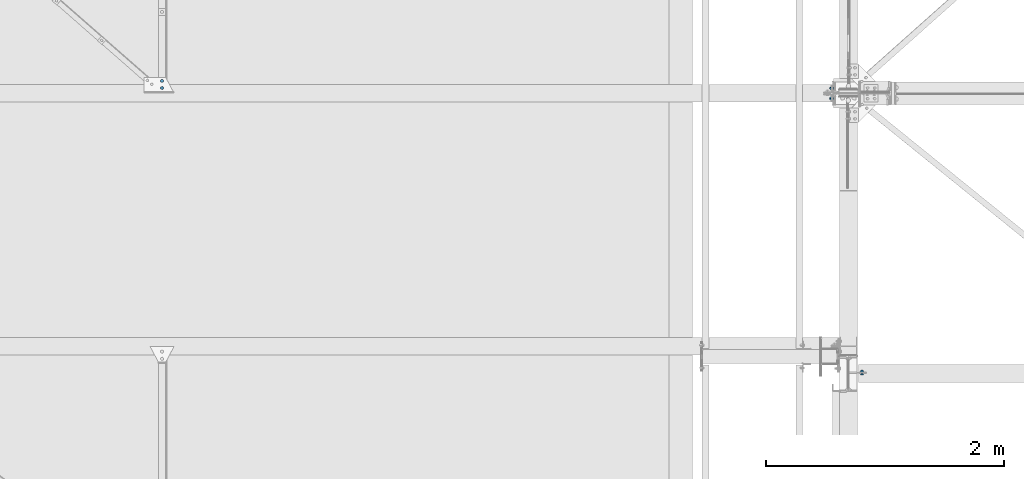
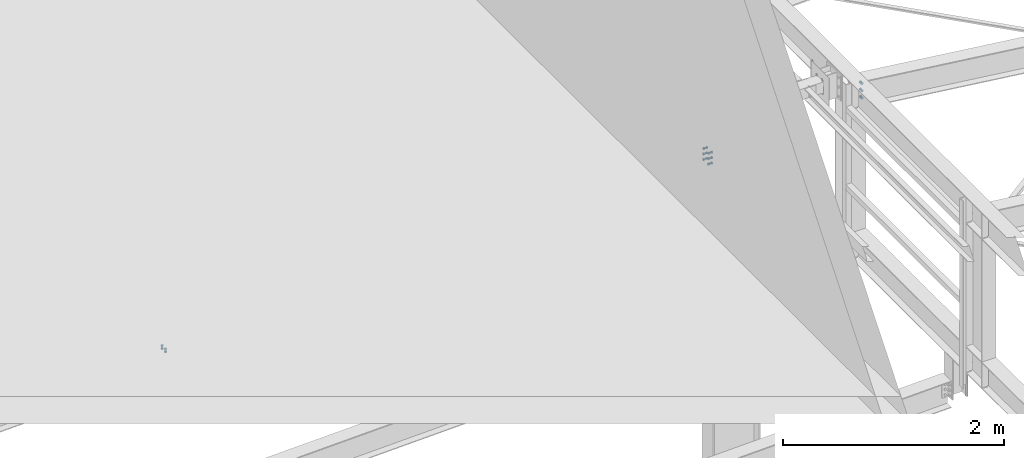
# One storey, part 91 of 3134: 4 mechanical fasteners, 4 elements without a shape of their own.
"""IFC2X3 building model written with IfcOpenShell, lengths in millimetres."""

import ifcopenshell
import ifcopenshell.guid

model = None  # the IFC model being written
_history = None  # IfcOwnerHistory: only IFC2X3 demands one
_inside = {}  # id of a spatial element -> (the spatial element, [elements in it])
_under = {}  # id of a project, library or spatial element -> (it, [spatial elements below it])
_declared = {}  # id of a project -> (the project, [libraries it declares])
_typed = {}  # id of a type object -> (the type object, [elements of that type])
_made_of = {}  # id of a material, layer set ... -> (it, [elements and type objects made of it])


def new_model(schema):
    """Start an empty IFC model of exactly this schema.

    Asked for "IFC4X3", IfcOpenShell would pick the latest addendum, in which some entities
    have other attributes; the version numbers below select the first issue.
    IFC2X3 requires an IfcOwnerHistory on every rooted entity: one is made here for all.
    """
    global model, _history
    if schema == "IFC4X3":
        model = ifcopenshell.file(schema_version=(4, 3, 0, 0))
    else:
        model = ifcopenshell.file(schema=schema)
    _inside.clear()
    _under.clear()
    _declared.clear()
    _typed.clear()
    _made_of.clear()
    _history = None
    if model.schema == "IFC2X3":
        org = make("IfcOrganization", Name="unknown")
        user = make(
            "IfcPersonAndOrganization",
            ThePerson=make("IfcPerson", FamilyName="unknown"),
            TheOrganization=org,
        )
        app = make(
            "IfcApplication",
            ApplicationDeveloper=org,
            Version="unknown",
            ApplicationFullName="unknown",
            ApplicationIdentifier="unknown",
        )
        _history = make(
            "IfcOwnerHistory",
            OwningUser=user,
            OwningApplication=app,
            ChangeAction="ADDED",
            CreationDate=0,
        )
    return model


def make(cls, **values):
    """One entity of the class cls with the attributes given. An attribute that is None is left unset."""
    return model.create_entity(
        cls, **{name: value for name, value in values.items() if value is not None}
    )


def rooted(cls, **values):
    """An entity with a GlobalId (a new one), such as an element, a storey or a relation."""
    return make(cls, GlobalId=ifcopenshell.guid.new(), OwnerHistory=_history, **values)


def si_unit(unit_type, name, prefix=None):
    """IfcSIUnit, for example si_unit("LENGTHUNIT", "METRE", prefix="MILLI")."""
    return make("IfcSIUnit", UnitType=unit_type, Prefix=prefix, Name=name)


def assignment(units):
    """IfcUnitAssignment: the units of a project."""
    return None if units is None else make("IfcUnitAssignment", Units=units)


def point(xyz):
    """IfcCartesianPoint."""
    return None if xyz is None else make("IfcCartesianPoint", Coordinates=xyz)


def direction(xyz):
    """IfcDirection."""
    return None if xyz is None else make("IfcDirection", DirectionRatios=xyz)


def frame(location, z_axis=None, x_axis=None):
    """IfcAxis2Placement3D, a coordinate frame: its origin and axes. An axis left out is left unset."""
    return make(
        "IfcAxis2Placement3D",
        Location=point(location),
        Axis=direction(z_axis),
        RefDirection=direction(x_axis),
    )


def origin_with_axes():
    """The frame at (0, 0, 0) with the z axis (0, 0, 1) and the x axis (1, 0, 0) written out."""
    return frame((0.0, 0.0, 0.0), z_axis=(0.0, 0.0, 1.0), x_axis=(1.0, 0.0, 0.0))


def place(relative_to, where):
    """IfcLocalPlacement: puts the frame where relative to a parent placement (None: the world)."""
    return make(
        "IfcLocalPlacement", PlacementRelTo=relative_to, RelativePlacement=where
    )


def context(
    kind, dimensions, precision=None, world=None, true_north=None, identifier=None
):
    """IfcGeometricRepresentationContext, for example the 3D "Model" context."""
    return make(
        "IfcGeometricRepresentationContext",
        ContextIdentifier=identifier,
        ContextType=kind,
        CoordinateSpaceDimension=dimensions,
        Precision=precision,
        WorldCoordinateSystem=world,
        TrueNorth=true_north,
    )


def subcontext(parent, identifier, kind, view, scale=None):
    """IfcGeometricRepresentationSubContext, for example "Body" below "Model"."""
    return make(
        "IfcGeometricRepresentationSubContext",
        ContextIdentifier=identifier,
        ContextType=kind,
        ParentContext=parent,
        TargetScale=scale,
        TargetView=view,
    )


def project(units=None, contexts=None):
    """IfcProject with its units and contexts."""
    return rooted(
        "IfcProject",
        Name="project",
        RepresentationContexts=contexts,
        UnitsInContext=assignment(units),
    )


def spatial(cls, under=None, at=None, **own):
    """A site, building, storey or space (cls), placed at a placement, below another one or the project."""
    s = rooted(cls, ObjectPlacement=at, **own)
    if under is not None:
        _under.setdefault(under.id(), (under, []))[1].append(s)
    return s


def faces_of(points, faces, orient=None, outer=None):
    """IfcFace entities. A face is a list of loops; a loop is a list of indices into points, from 0.

    orient and outer hold one flag for each loop. By default every Orientation is true, the
    first loop of a face is its IfcFaceOuterBound and the others are IfcFaceBound.
    """
    made = []
    for i, loops in enumerate(faces):
        bounds = []
        for j, loop in enumerate(loops):
            is_outer = j == 0 if outer is None else outer[i][j]
            bounds.append(
                make(
                    "IfcFaceOuterBound" if is_outer else "IfcFaceBound",
                    Bound=make("IfcPolyLoop", Polygon=[points[k] for k in loop]),
                    Orientation=True if orient is None else orient[i][j],
                )
            )
        made.append(make("IfcFace", Bounds=bounds))
    return made


def faceted_brep(points, faces, orient=None, outer=None, voids=None):
    """IfcFacetedBrep: a solid bounded by flat faces; with voids (closed shells), ...WithVoids."""
    shared = [point(p) for p in points]
    hull = make("IfcClosedShell", CfsFaces=faces_of(shared, faces, orient, outer))
    if voids is None:
        return make("IfcFacetedBrep", Outer=hull)
    return make(
        "IfcFacetedBrepWithVoids",
        Outer=hull,
        Voids=[
            make(cls, CfsFaces=faces_of(shared, fs, o, b)) for cls, fs, o, b in voids
        ],
    )


def shape(context_of_items, identifier, shape_type, items):
    """IfcShapeRepresentation: the items that make up one representation, for example the "Body"."""
    return make(
        "IfcShapeRepresentation",
        ContextOfItems=context_of_items,
        RepresentationIdentifier=identifier,
        RepresentationType=shape_type,
        Items=items,
    )


def source(mapping_origin, context_of_items, identifier, shape_type, items):
    """IfcRepresentationMap: a shape defined once, which mapped items show again and again."""
    return make(
        "IfcRepresentationMap",
        MappingOrigin=mapping_origin,
        MappedRepresentation=shape(context_of_items, identifier, shape_type, items),
    )


def transform(
    local_origin,
    x_axis=None,
    y_axis=None,
    z_axis=None,
    scale=None,
    scale2=None,
    scale3=None,
    uniform=True,
):
    """IfcCartesianTransformationOperator3D, or its non-uniform kind. x_axis, y_axis, z_axis: its Axis1, 2, 3."""
    if uniform:
        return make(
            "IfcCartesianTransformationOperator3D",
            Axis1=direction(x_axis),
            Axis2=direction(y_axis),
            LocalOrigin=point(local_origin),
            Scale=scale,
            Axis3=direction(z_axis),
        )
    return make(
        "IfcCartesianTransformationOperator3DnonUniform",
        Axis1=direction(x_axis),
        Axis2=direction(y_axis),
        LocalOrigin=point(local_origin),
        Scale=scale,
        Axis3=direction(z_axis),
        Scale2=scale2,
        Scale3=scale3,
    )


def mapped(mapping_source, mapping_target):
    """IfcMappedItem: shows the shape of a source again, moved by a transform."""
    return make(
        "IfcMappedItem", MappingSource=mapping_source, MappingTarget=mapping_target
    )


def material(Name=None, Category=None):
    """IfcMaterial."""
    return make("IfcMaterial", Name=Name, Category=Category)


def made_of(thing, what):
    """Note that an element or type object is made of a material, layer set ...; save() writes the relation."""
    if what is not None:
        _made_of.setdefault(what.id(), (what, []))[1].append(thing)
    return thing


def type_object(cls, material=None, **own):
    """A type object (cls), such as IfcWallType, which elements share."""
    return made_of(rooted(cls, **own), material)


def element(
    cls,
    number,
    at=None,
    inside=None,
    cuts=None,
    type_object=None,
    material=None,
    context=None,
    identifier="Body",
    shape_type=None,
    held_by="IfcProductDefinitionShape",
    body=None,
    shapes=None,
    **own,
):
    """One element of the class cls, such as IfcWall. Its Tag is "e" and its number.

    at: its placement. inside: the storey or other place that contains it. cuts: it is an
    opening in that element (IfcRelVoidsElement). A single representation is given by context,
    identifier, shape_type and body (its items); several are given by shapes. held_by: the class
    of the entity that holds the representations. save() writes the other relations.
    """
    e = rooted(cls, Tag="e%d" % number, ObjectPlacement=at, **own)
    if body is not None:
        shapes = [shape(context, identifier, shape_type, body)]
    if shapes is not None:
        e.Representation = make(held_by, Representations=shapes)
    if inside is not None:
        _inside.setdefault(inside.id(), (inside, []))[1].append(e)
    if cuts is not None:
        rooted(
            "IfcRelVoidsElement", RelatingBuildingElement=cuts, RelatedOpeningElement=e
        )
    if type_object is not None:
        _typed.setdefault(type_object.id(), (type_object, []))[1].append(e)
    return made_of(e, material)


def aggregate(whole, parts):
    """IfcRelAggregates: a whole, such as a stair, and the parts it consists of."""
    return rooted("IfcRelAggregates", RelatingObject=whole, RelatedObjects=parts)


def save(model, path):
    """Write the relations noted so far, then the file.

    IfcRelAggregates (storeys below a building ...), IfcRelContainedInSpatialStructure (elements
    in a storey), IfcRelDefinesByType, IfcRelAssociatesMaterial and IfcRelDeclares: one each for
    every whole, place, type object, material and project.
    """
    for whole, parts in _under.values():
        aggregate(whole, parts)
    for where, things in _inside.values():
        rooted(
            "IfcRelContainedInSpatialStructure",
            RelatedElements=things,
            RelatingStructure=where,
        )
    for kind, things in _typed.values():
        rooted("IfcRelDefinesByType", RelatedObjects=things, RelatingType=kind)
    for what, things in _made_of.values():
        rooted("IfcRelAssociatesMaterial", RelatedObjects=things, RelatingMaterial=what)
    for by, libraries in _declared.values():
        rooted("IfcRelDeclares", RelatingContext=by, RelatedDefinitions=libraries)
    model.write(path)


model = new_model("IFC2X3")

# Units and contexts
model_context = context("Model", 3, precision=1e-05, world=origin_with_axes())
body_context = subcontext(model_context, "Body", "Model", "MODEL_VIEW")
ifc_project = project(units=[si_unit("LENGTHUNIT", "METRE", prefix="MILLI"), si_unit("AREAUNIT", "SQUARE_METRE"), si_unit("VOLUMEUNIT", "CUBIC_METRE"), si_unit("MASSUNIT", "GRAM", prefix="KILO"), si_unit("TIMEUNIT", "SECOND"), si_unit("PLANEANGLEUNIT", "RADIAN"), si_unit("SOLIDANGLEUNIT", "STERADIAN"), si_unit("THERMODYNAMICTEMPERATUREUNIT", "DEGREE_CELSIUS"), si_unit("LUMINOUSINTENSITYUNIT", "LUMEN")], contexts=[model_context])

# Site, building, storey
site_placement = place(None, origin_with_axes())
site = spatial("IfcSite", under=ifc_project, at=site_placement, CompositionType="ELEMENT")
building_placement = place(site_placement, origin_with_axes())
building = spatial("IfcBuilding", under=site, at=building_placement, Name="Undefined", CompositionType="ELEMENT")
storey_placement = place(building_placement, origin_with_axes())
storey = spatial("IfcBuildingStorey", under=building, at=storey_placement, Name="Undefined", CompositionType="ELEMENT", Elevation=0.0)

# Assembly, mechanical fastener
assembly_1_placement = place(storey_placement, origin_with_axes())
assembly_1 = element("IfcElementAssembly", 1, at=assembly_1_placement, inside=storey, Name="300", AssemblyPlace="NOTDEFINED", PredefinedType="RIGID_FRAME")
ifc_material = material(Name="8.8")
mechanical_fastener_type = type_object("IfcMechanicalFastenerType", Name="Bolt assembly")
shared_shape_1 = source(origin_with_axes(), body_context, "Body", "Brep", [
    faceted_brep([(13.856406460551, -13.0499999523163, 0.0), (6.92820323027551, -13.0499999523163, 12.0), (-6.92820323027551, -13.0499999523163, 12.0), (-13.856406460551, -13.0499999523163, 1.69692038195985e-15), (-6.92820323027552, -13.0499999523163, -12.0), (6.9282032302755, -13.0499999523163, -12.0), (6.9282032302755, -3.04999995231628, -12.0), (-6.92820323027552, -3.04999995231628, -12.0), (-13.856406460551, -3.04999995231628, 1.69692038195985e-15), (-6.92820323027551, -3.04999995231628, 12.0), (6.92820323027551, -3.04999995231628, 12.0), (13.856406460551, -3.04999995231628, 0.0), (8.0, -3.04999995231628, 0.0), (6.92820323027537, -3.04999995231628, 4.00000000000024), (3.99999999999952, -3.04999995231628, 6.92820323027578), (-8.29068785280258e-13, -3.04999995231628, 8.0), (-4.00000000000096, -3.04999995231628, 6.92820323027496), (-6.9282032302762, -3.04999995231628, 3.99999999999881), (-8.0, -3.04999995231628, -1.65813757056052e-12), (-6.92820323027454, -3.04999995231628, -4.00000000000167), (-3.99999999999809, -3.04999995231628, -6.92820323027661), (2.47832457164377e-12, -3.04999995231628, -8.0), (4.00000000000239, -3.04999995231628, -6.92820323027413), (6.92820323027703, -3.04999995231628, -3.99999999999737), (6.92820323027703, 31.9500000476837, -3.99999999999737), (4.00000000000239, 31.9500000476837, -6.92820323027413), (2.47832457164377e-12, 31.9500000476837, -8.0), (-3.99999999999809, 31.9500000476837, -6.92820323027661), (-6.92820323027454, 31.9500000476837, -4.00000000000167), (-8.0, 31.9500000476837, -1.65813757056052e-12), (-6.9282032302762, 31.9500000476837, 3.99999999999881), (-4.00000000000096, 31.9500000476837, 6.92820323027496), (-8.29068785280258e-13, 31.9500000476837, 8.0), (3.99999999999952, 31.9500000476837, 6.92820323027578), (6.92820323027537, 31.9500000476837, 4.00000000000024), (8.0, 31.9500000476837, 0.0), (13.856406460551, 13.0500000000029, 0.0), (6.92820323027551, 13.0500000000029, 12.0), (-6.92820323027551, 13.0500000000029, 12.0), (-13.856406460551, 13.0500000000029, 1.69692038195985e-15), (-6.92820323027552, 13.0500000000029, -12.0), (6.9282032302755, 13.0500000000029, -12.0), (6.9282032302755, 26.0500000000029, -12.0), (-6.92820323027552, 26.0500000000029, -12.0), (-13.856406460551, 26.0500000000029, 1.69692038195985e-15), (-6.92820323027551, 26.0500000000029, 12.0), (6.92820323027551, 26.0500000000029, 12.0), (13.856406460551, 26.0500000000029, 0.0)], [[[0, 1, 2, 3, 4, 5]], [[6, 7, 8, 9, 10, 11]], [[0, 11, 10, 1]], [[1, 10, 9, 2]], [[2, 9, 8, 3]], [[3, 8, 7, 4]], [[4, 7, 6, 5]], [[5, 6, 11, 0]], [[12, 13, 14, 15, 16, 17, 18, 19, 20, 21, 22, 23]], [[24, 25, 26, 27, 28, 29, 30, 31, 32, 33, 34, 35]], [[12, 35, 34, 13]], [[13, 34, 33, 14]], [[14, 33, 32, 15]], [[15, 32, 31, 16]], [[16, 31, 30, 17]], [[17, 30, 29, 18]], [[18, 29, 28, 19]], [[19, 28, 27, 20]], [[20, 27, 26, 21]], [[21, 26, 25, 22]], [[22, 25, 24, 23]], [[23, 24, 35, 12]], [[36, 37, 38, 39, 40, 41]], [[42, 43, 44, 45, 46, 47]], [[36, 47, 46, 37]], [[37, 46, 45, 38]], [[38, 45, 44, 39]], [[39, 44, 43, 40]], [[40, 43, 42, 41]], [[41, 42, 47, 36]]]),
    faceted_brep([(9.0, 2.95000000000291, 0.0), (7.79422863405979, 2.95000000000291, 4.50000000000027), (4.49999999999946, 2.95000000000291, 7.79422863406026), (-9.3270238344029e-13, 2.95000000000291, 9.0), (-4.50000000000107, 2.95000000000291, 7.79422863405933), (-7.79422863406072, 2.95000000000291, 4.49999999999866), (-9.0, 2.95000000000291, -1.86540476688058e-12), (-7.79422863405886, 2.95000000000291, -4.50000000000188), (-4.49999999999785, 2.95000000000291, -7.79422863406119), (2.78811514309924e-12, 2.95000000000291, -9.0), (4.50000000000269, 2.95000000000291, -7.7942286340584), (7.79422863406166, 2.95000000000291, -4.49999999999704), (7.79422863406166, 13.0500000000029, -4.49999999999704), (4.50000000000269, 13.0500000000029, -7.7942286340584), (2.78811514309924e-12, 13.0500000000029, -9.0), (-4.49999999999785, 13.0500000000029, -7.79422863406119), (-7.79422863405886, 13.0500000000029, -4.50000000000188), (-9.0, 13.0500000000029, -1.86540476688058e-12), (-7.79422863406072, 13.0500000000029, 4.49999999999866), (-4.50000000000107, 13.0500000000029, 7.79422863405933), (-9.3270238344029e-13, 13.0500000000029, 9.0), (4.49999999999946, 13.0500000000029, 7.79422863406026), (7.79422863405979, 13.0500000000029, 4.50000000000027), (9.0, 13.0500000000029, 0.0), (9.0, -2.94999995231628, 0.0), (7.79422863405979, -2.94999995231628, 4.50000000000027), (4.49999999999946, -2.94999995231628, 7.79422863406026), (-9.3270238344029e-13, -2.94999995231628, 9.0), (-4.50000000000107, -2.94999995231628, 7.79422863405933), (-7.79422863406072, -2.94999995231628, 4.49999999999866), (-9.0, -2.94999995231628, -1.86540476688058e-12), (-7.79422863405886, -2.94999995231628, -4.50000000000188), (-4.49999999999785, -2.94999995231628, -7.79422863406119), (2.78811514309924e-12, -2.94999995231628, -9.0), (4.50000000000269, -2.94999995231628, -7.7942286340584), (7.79422863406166, -2.94999995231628, -4.49999999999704), (7.79422863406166, 3.14999995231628, -4.49999999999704), (4.50000000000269, 3.14999995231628, -7.7942286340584), (2.78811514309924e-12, 3.14999995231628, -9.0), (-4.49999999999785, 3.14999995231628, -7.79422863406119), (-7.79422863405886, 3.14999995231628, -4.50000000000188), (-9.0, 3.14999995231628, -1.86540476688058e-12), (-7.79422863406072, 3.14999995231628, 4.49999999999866), (-4.50000000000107, 3.14999995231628, 7.79422863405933), (-9.3270238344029e-13, 3.14999995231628, 9.0), (4.49999999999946, 3.14999995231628, 7.79422863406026), (7.79422863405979, 3.14999995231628, 4.50000000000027), (9.0, 3.14999995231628, 0.0)], [[[0, 1, 2, 3, 4, 5, 6, 7, 8, 9, 10, 11]], [[12, 13, 14, 15, 16, 17, 18, 19, 20, 21, 22, 23]], [[0, 23, 22, 1]], [[1, 22, 21, 2]], [[2, 21, 20, 3]], [[3, 20, 19, 4]], [[4, 19, 18, 5]], [[5, 18, 17, 6]], [[6, 17, 16, 7]], [[7, 16, 15, 8]], [[8, 15, 14, 9]], [[9, 14, 13, 10]], [[10, 13, 12, 11]], [[11, 12, 23, 0]], [[24, 25, 26, 27, 28, 29, 30, 31, 32, 33, 34, 35]], [[36, 37, 38, 39, 40, 41, 42, 43, 44, 45, 46, 47]], [[24, 47, 46, 25]], [[25, 46, 45, 26]], [[26, 45, 44, 27]], [[27, 44, 43, 28]], [[28, 43, 42, 29]], [[29, 42, 41, 30]], [[30, 41, 40, 31]], [[31, 40, 39, 32]], [[32, 39, 38, 33]], [[33, 38, 37, 34]], [[34, 37, 36, 35]], [[35, 36, 47, 24]]]),
])
mechanical_fastener_1_placement = place(assembly_1_placement, frame((20965.0, 17090.0, 5735.35014950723), z_axis=(1.0, 0.0, 0.0), x_axis=(0.0, 0.0, -1.0)))
mechanical_fastener_1 = element("IfcMechanicalFastener", 2, at=mechanical_fastener_1_placement, type_object=mechanical_fastener_type, material=ifc_material, Name="Bolt assembly", NominalDiameter=16.0, NominalLength=35.0, context=body_context, shape_type="MappedRepresentation", body=[
    mapped(shared_shape_1, transform((0.0, 0.0, 0.0))),
    mapped(shared_shape_1, transform((80.0, 0.0, 0.0))),
    mapped(shared_shape_1, transform((160.0, 0.0, 0.0))),
])
aggregate(assembly_1, [mechanical_fastener_1])

assembly_2_placement = place(storey_placement, origin_with_axes())
assembly_2 = element("IfcElementAssembly", 3, at=assembly_2_placement, inside=storey, Name="300", AssemblyPlace="NOTDEFINED", PredefinedType="RIGID_FRAME")
shared_shape_2 = source(origin_with_axes(), body_context, "Body", "Brep", [
    faceted_brep([(13.856406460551, -21.0000017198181, 0.0), (6.92820323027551, -21.0000017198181, 12.0), (-6.92820323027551, -21.0000017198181, 12.0), (-13.856406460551, -21.0000017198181, 1.69692038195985e-15), (-6.92820323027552, -21.0000017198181, -12.0), (6.9282032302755, -21.0000017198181, -12.0), (6.9282032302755, -11.0000017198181, -12.0), (-6.92820323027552, -11.0000017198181, -12.0), (-13.856406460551, -11.0000017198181, 1.69692038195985e-15), (-6.92820323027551, -11.0000017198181, 12.0), (6.92820323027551, -11.0000017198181, 12.0), (13.856406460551, -11.0000017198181, 0.0), (8.0, -11.0000017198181, 0.0), (6.92820323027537, -11.0000017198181, 4.00000000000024), (3.99999999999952, -11.0000017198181, 6.92820323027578), (-8.29068785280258e-13, -11.0000017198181, 8.0), (-4.00000000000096, -11.0000017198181, 6.92820323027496), (-6.9282032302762, -11.0000017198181, 3.99999999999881), (-8.0, -11.0000017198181, -1.65813757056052e-12), (-6.92820323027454, -11.0000017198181, -4.00000000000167), (-3.99999999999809, -11.0000017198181, -6.92820323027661), (2.47832457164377e-12, -11.0000017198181, -8.0), (4.00000000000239, -11.0000017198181, -6.92820323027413), (6.92820323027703, -11.0000017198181, -3.99999999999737), (6.92820323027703, 29.0, -3.99999999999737), (4.00000000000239, 29.0, -6.92820323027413), (2.47832457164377e-12, 29.0, -8.0), (-3.99999999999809, 29.0, -6.92820323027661), (-6.92820323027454, 29.0, -4.00000000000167), (-8.0, 29.0, -1.65813757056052e-12), (-6.9282032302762, 29.0, 3.99999999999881), (-4.00000000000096, 29.0, 6.92820323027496), (-8.29068785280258e-13, 29.0, 8.0), (3.99999999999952, 29.0, 6.92820323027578), (6.92820323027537, 29.0, 4.00000000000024), (8.0, 29.0, 0.0), (13.856406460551, 10.9999982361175, 0.0), (6.92820323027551, 10.9999982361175, 12.0), (-6.92820323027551, 10.9999982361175, 12.0), (-13.856406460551, 10.9999982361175, 1.69692038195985e-15), (-6.92820323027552, 10.9999982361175, -12.0), (6.9282032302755, 10.9999982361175, -12.0), (6.9282032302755, 23.9999999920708, -12.0), (-6.92820323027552, 23.9999999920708, -12.0), (-13.856406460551, 23.9999999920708, 1.69692038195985e-15), (-6.92820323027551, 23.9999999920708, 12.0), (6.92820323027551, 23.9999999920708, 12.0), (13.856406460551, 23.9999999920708, 0.0)], [[[0, 1, 2, 3, 4, 5]], [[6, 7, 8, 9, 10, 11]], [[0, 11, 10, 1]], [[1, 10, 9, 2]], [[2, 9, 8, 3]], [[3, 8, 7, 4]], [[4, 7, 6, 5]], [[5, 6, 11, 0]], [[12, 13, 14, 15, 16, 17, 18, 19, 20, 21, 22, 23]], [[24, 25, 26, 27, 28, 29, 30, 31, 32, 33, 34, 35]], [[12, 35, 34, 13]], [[13, 34, 33, 14]], [[14, 33, 32, 15]], [[15, 32, 31, 16]], [[16, 31, 30, 17]], [[17, 30, 29, 18]], [[18, 29, 28, 19]], [[19, 28, 27, 20]], [[20, 27, 26, 21]], [[21, 26, 25, 22]], [[22, 25, 24, 23]], [[23, 24, 35, 12]], [[36, 37, 38, 39, 40, 41]], [[42, 43, 44, 45, 46, 47]], [[36, 47, 46, 37]], [[37, 46, 45, 38]], [[38, 45, 44, 39]], [[39, 44, 43, 40]], [[40, 43, 42, 41]], [[41, 42, 47, 36]]]),
    faceted_brep([(9.0, -10.9000017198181, 0.0), (7.79422863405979, -10.9000017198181, 4.50000000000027), (4.49999999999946, -10.9000017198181, 7.79422863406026), (-9.3270238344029e-13, -10.9000017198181, 9.0), (-4.50000000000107, -10.9000017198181, 7.79422863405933), (-7.79422863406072, -10.9000017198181, 4.49999999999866), (-9.0, -10.9000017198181, -1.86540476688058e-12), (-7.79422863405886, -10.9000017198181, -4.50000000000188), (-4.49999999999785, -10.9000017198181, -7.79422863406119), (2.78811514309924e-12, -10.9000017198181, -9.0), (4.50000000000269, -10.9000017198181, -7.7942286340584), (7.79422863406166, -10.9000017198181, -4.49999999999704), (7.79422863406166, -3.9, -4.49999999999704), (4.50000000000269, -3.9, -7.7942286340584), (2.78811514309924e-12, -3.9, -9.0), (-4.49999999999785, -3.9, -7.79422863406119), (-7.79422863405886, -3.9, -4.50000000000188), (-9.0, -3.9, -1.86540476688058e-12), (-7.79422863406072, -3.9, 4.49999999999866), (-4.50000000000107, -3.9, 7.79422863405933), (-9.3270238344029e-13, -3.9, 9.0), (4.49999999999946, -3.9, 7.79422863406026), (7.79422863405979, -3.9, 4.50000000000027), (9.0, -3.9, 0.0), (9.0, -3.99999624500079, 0.0), (7.79422863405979, -3.99999624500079, 4.50000000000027), (4.49999999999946, -3.99999624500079, 7.79422863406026), (-9.3270238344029e-13, -3.99999624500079, 9.0), (-4.50000000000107, -3.99999624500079, 7.79422863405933), (-7.79422863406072, -3.99999624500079, 4.49999999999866), (-9.0, -3.99999624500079, -1.86540476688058e-12), (-7.79422863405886, -3.99999624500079, -4.50000000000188), (-4.49999999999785, -3.99999624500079, -7.79422863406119), (2.78811514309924e-12, -3.99999624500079, -9.0), (4.50000000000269, -3.99999624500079, -7.7942286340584), (7.79422863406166, -3.99999624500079, -4.49999999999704), (7.79422863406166, 4.00000375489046, -4.49999999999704), (4.50000000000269, 4.00000375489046, -7.7942286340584), (2.78811514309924e-12, 4.00000375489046, -9.0), (-4.49999999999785, 4.00000375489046, -7.79422863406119), (-7.79422863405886, 4.00000375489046, -4.50000000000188), (-9.0, 4.00000375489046, -1.86540476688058e-12), (-7.79422863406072, 4.00000375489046, 4.49999999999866), (-4.50000000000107, 4.00000375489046, 7.79422863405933), (-9.3270238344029e-13, 4.00000375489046, 9.0), (4.49999999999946, 4.00000375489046, 7.79422863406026), (7.79422863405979, 4.00000375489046, 4.50000000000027), (9.0, 4.00000375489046, 0.0), (9.0, 3.9, 0.0), (7.79422863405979, 3.9, 4.50000000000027), (4.49999999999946, 3.9, 7.79422863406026), (-9.3270238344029e-13, 3.9, 9.0), (-4.50000000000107, 3.9, 7.79422863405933), (-7.79422863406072, 3.9, 4.49999999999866), (-9.0, 3.9, -1.86540476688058e-12), (-7.79422863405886, 3.9, -4.50000000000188), (-4.49999999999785, 3.9, -7.79422863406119), (2.78811514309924e-12, 3.9, -9.0), (4.50000000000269, 3.9, -7.7942286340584), (7.79422863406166, 3.9, -4.49999999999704), (7.79422863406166, 10.9999982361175, -4.49999999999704), (4.50000000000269, 10.9999982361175, -7.7942286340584), (2.78811514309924e-12, 10.9999982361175, -9.0), (-4.49999999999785, 10.9999982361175, -7.79422863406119), (-7.79422863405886, 10.9999982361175, -4.50000000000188), (-9.0, 10.9999982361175, -1.86540476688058e-12), (-7.79422863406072, 10.9999982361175, 4.49999999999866), (-4.50000000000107, 10.9999982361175, 7.79422863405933), (-9.3270238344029e-13, 10.9999982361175, 9.0), (4.49999999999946, 10.9999982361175, 7.79422863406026), (7.79422863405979, 10.9999982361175, 4.50000000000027), (9.0, 10.9999982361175, 0.0)], [[[0, 1, 2, 3, 4, 5, 6, 7, 8, 9, 10, 11]], [[12, 13, 14, 15, 16, 17, 18, 19, 20, 21, 22, 23]], [[0, 23, 22, 1]], [[1, 22, 21, 2]], [[2, 21, 20, 3]], [[3, 20, 19, 4]], [[4, 19, 18, 5]], [[5, 18, 17, 6]], [[6, 17, 16, 7]], [[7, 16, 15, 8]], [[8, 15, 14, 9]], [[9, 14, 13, 10]], [[10, 13, 12, 11]], [[11, 12, 23, 0]], [[24, 25, 26, 27, 28, 29, 30, 31, 32, 33, 34, 35]], [[36, 37, 38, 39, 40, 41, 42, 43, 44, 45, 46, 47]], [[24, 47, 46, 25]], [[25, 46, 45, 26]], [[26, 45, 44, 27]], [[27, 44, 43, 28]], [[28, 43, 42, 29]], [[29, 42, 41, 30]], [[30, 41, 40, 31]], [[31, 40, 39, 32]], [[32, 39, 38, 33]], [[33, 38, 37, 34]], [[34, 37, 36, 35]], [[35, 36, 47, 24]], [[48, 49, 50, 51, 52, 53, 54, 55, 56, 57, 58, 59]], [[60, 61, 62, 63, 64, 65, 66, 67, 68, 69, 70, 71]], [[48, 71, 70, 49]], [[49, 70, 69, 50]], [[50, 69, 68, 51]], [[51, 68, 67, 52]], [[52, 67, 66, 53]], [[53, 66, 65, 54]], [[54, 65, 64, 55]], [[55, 64, 63, 56]], [[56, 63, 62, 57]], [[57, 62, 61, 58]], [[58, 61, 60, 59]], [[59, 60, 71, 48]]]),
])
mechanical_fastener_2_placement = place(assembly_2_placement, frame((15072.5010771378, 19495.0, 3386.35293760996), z_axis=(-0.999519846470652, 0.0, -0.0309851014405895), x_axis=(0.0, 1.0, 0.0)))
mechanical_fastener_2 = element("IfcMechanicalFastener", 4, at=mechanical_fastener_2_placement, type_object=mechanical_fastener_type, material=ifc_material, Name="Bolt assembly", NominalDiameter=16.0, NominalLength=40.0, context=body_context, shape_type="MappedRepresentation", body=[
    mapped(shared_shape_2, transform((0.0, 0.0, 0.0))),
    mapped(shared_shape_2, transform((59.9999999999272, 0.0, 5.40239852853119e-10))),
])
aggregate(assembly_2, [mechanical_fastener_2])

assembly_3_placement = place(storey_placement, origin_with_axes())
assembly_3 = element("IfcElementAssembly", 5, at=assembly_3_placement, inside=storey, AssemblyPlace="NOTDEFINED", PredefinedType="RIGID_FRAME")
shared_shape_3 = source(origin_with_axes(), body_context, "Body", "Brep", [
    faceted_brep([(13.856406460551, -26.001656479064, 0.0), (6.92820323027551, -26.001656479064, 12.0), (-6.92820323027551, -26.001656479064, 12.0), (-13.856406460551, -26.001656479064, 1.69692038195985e-15), (-6.92820323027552, -26.001656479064, -12.0), (6.9282032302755, -26.001656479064, -12.0), (6.9282032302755, -16.001656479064, -12.0), (-6.92820323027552, -16.001656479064, -12.0), (-13.856406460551, -16.001656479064, 1.69692038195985e-15), (-6.92820323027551, -16.001656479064, 12.0), (6.92820323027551, -16.001656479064, 12.0), (13.856406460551, -16.001656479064, 0.0), (8.0, -16.001656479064, 0.0), (6.92820323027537, -16.001656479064, 4.00000000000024), (3.99999999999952, -16.001656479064, 6.92820323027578), (-8.29068785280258e-13, -16.001656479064, 8.0), (-4.00000000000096, -16.001656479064, 6.92820323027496), (-6.9282032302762, -16.001656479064, 3.99999999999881), (-8.0, -16.001656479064, -1.65813757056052e-12), (-6.92820323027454, -16.001656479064, -4.00000000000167), (-3.99999999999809, -16.001656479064, -6.92820323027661), (2.47832457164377e-12, -16.001656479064, -8.0), (4.00000000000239, -16.001656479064, -6.92820323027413), (6.92820323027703, -16.001656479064, -3.99999999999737), (6.92820323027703, 23.998343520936, -3.99999999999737), (4.00000000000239, 23.998343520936, -6.92820323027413), (2.47832457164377e-12, 23.998343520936, -8.0), (-3.99999999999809, 23.998343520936, -6.92820323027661), (-6.92820323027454, 23.998343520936, -4.00000000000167), (-8.0, 23.998343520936, -1.65813757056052e-12), (-6.9282032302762, 23.998343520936, 3.99999999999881), (-4.00000000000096, 23.998343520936, 6.92820323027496), (-8.29068785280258e-13, 23.998343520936, 8.0), (3.99999999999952, 23.998343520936, 6.92820323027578), (6.92820323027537, 23.998343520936, 4.00000000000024), (8.0, 23.998343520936, 0.0), (13.856406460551, 7.0, 0.0), (6.92820323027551, 7.0, 12.0), (-6.92820323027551, 7.0, 12.0), (-13.856406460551, 7.0, 1.69692038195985e-15), (-6.92820323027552, 7.0, -12.0), (6.9282032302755, 7.0, -12.0), (6.9282032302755, 20.0, -12.0), (-6.92820323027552, 20.0, -12.0), (-13.856406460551, 20.0, 1.69692038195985e-15), (-6.92820323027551, 20.0, 12.0), (6.92820323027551, 20.0, 12.0), (13.856406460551, 20.0, 0.0)], [[[0, 1, 2, 3, 4, 5]], [[6, 7, 8, 9, 10, 11]], [[0, 11, 10, 1]], [[1, 10, 9, 2]], [[2, 9, 8, 3]], [[3, 8, 7, 4]], [[4, 7, 6, 5]], [[5, 6, 11, 0]], [[12, 13, 14, 15, 16, 17, 18, 19, 20, 21, 22, 23]], [[24, 25, 26, 27, 28, 29, 30, 31, 32, 33, 34, 35]], [[12, 35, 34, 13]], [[13, 34, 33, 14]], [[14, 33, 32, 15]], [[15, 32, 31, 16]], [[16, 31, 30, 17]], [[17, 30, 29, 18]], [[18, 29, 28, 19]], [[19, 28, 27, 20]], [[20, 27, 26, 21]], [[21, 26, 25, 22]], [[22, 25, 24, 23]], [[23, 24, 35, 12]], [[36, 37, 38, 39, 40, 41]], [[42, 43, 44, 45, 46, 47]], [[36, 47, 46, 37]], [[37, 46, 45, 38]], [[38, 45, 44, 39]], [[39, 44, 43, 40]], [[40, 43, 42, 41]], [[41, 42, 47, 36]]]),
    faceted_brep([(9.0, -15.901656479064, 0.0), (7.79422863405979, -15.901656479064, 4.50000000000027), (4.49999999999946, -15.901656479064, 7.79422863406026), (-9.3270238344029e-13, -15.901656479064, 9.0), (-4.50000000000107, -15.901656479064, 7.79422863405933), (-7.79422863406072, -15.901656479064, 4.49999999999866), (-9.0, -15.901656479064, -1.86540476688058e-12), (-7.79422863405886, -15.901656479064, -4.50000000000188), (-4.49999999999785, -15.901656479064, -7.79422863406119), (2.78811514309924e-12, -15.901656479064, -9.0), (4.50000000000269, -15.901656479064, -7.7942286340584), (7.79422863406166, -15.901656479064, -4.49999999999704), (7.79422863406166, 0.0983435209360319, -4.49999999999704), (4.50000000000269, 0.0983435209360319, -7.7942286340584), (2.78811514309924e-12, 0.0983435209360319, -9.0), (-4.49999999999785, 0.0983435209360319, -7.79422863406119), (-7.79422863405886, 0.0983435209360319, -4.50000000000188), (-9.0, 0.0983435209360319, -1.86540476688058e-12), (-7.79422863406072, 0.0983435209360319, 4.49999999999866), (-4.50000000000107, 0.0983435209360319, 7.79422863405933), (-9.3270238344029e-13, 0.0983435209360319, 9.0), (4.49999999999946, 0.0983435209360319, 7.79422863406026), (7.79422863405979, 0.0983435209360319, 4.50000000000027), (9.0, 0.0983435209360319, 0.0), (9.0, -0.1, 0.0), (7.79422863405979, -0.1, 4.50000000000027), (4.49999999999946, -0.1, 7.79422863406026), (-9.3270238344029e-13, -0.1, 9.0), (-4.50000000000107, -0.1, 7.79422863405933), (-7.79422863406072, -0.1, 4.49999999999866), (-9.0, -0.1, -1.86540476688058e-12), (-7.79422863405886, -0.1, -4.50000000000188), (-4.49999999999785, -0.1, -7.79422863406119), (2.78811514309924e-12, -0.1, -9.0), (4.50000000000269, -0.1, -7.7942286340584), (7.79422863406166, -0.1, -4.49999999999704), (7.79422863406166, 7.0, -4.49999999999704), (4.50000000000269, 7.0, -7.7942286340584), (2.78811514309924e-12, 7.0, -9.0), (-4.49999999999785, 7.0, -7.79422863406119), (-7.79422863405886, 7.0, -4.50000000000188), (-9.0, 7.0, -1.86540476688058e-12), (-7.79422863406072, 7.0, 4.49999999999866), (-4.50000000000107, 7.0, 7.79422863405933), (-9.3270238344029e-13, 7.0, 9.0), (4.49999999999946, 7.0, 7.79422863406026), (7.79422863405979, 7.0, 4.50000000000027), (9.0, 7.0, 0.0)], [[[0, 1, 2, 3, 4, 5, 6, 7, 8, 9, 10, 11]], [[12, 13, 14, 15, 16, 17, 18, 19, 20, 21, 22, 23]], [[0, 23, 22, 1]], [[1, 22, 21, 2]], [[2, 21, 20, 3]], [[3, 20, 19, 4]], [[4, 19, 18, 5]], [[5, 18, 17, 6]], [[6, 17, 16, 7]], [[7, 16, 15, 8]], [[8, 15, 14, 9]], [[9, 14, 13, 10]], [[10, 13, 12, 11]], [[11, 12, 23, 0]], [[24, 25, 26, 27, 28, 29, 30, 31, 32, 33, 34, 35]], [[36, 37, 38, 39, 40, 41, 42, 43, 44, 45, 46, 47]], [[24, 47, 46, 25]], [[25, 46, 45, 26]], [[26, 45, 44, 27]], [[27, 44, 43, 28]], [[28, 43, 42, 29]], [[29, 42, 41, 30]], [[30, 41, 40, 31]], [[31, 40, 39, 32]], [[32, 39, 38, 33]], [[33, 38, 37, 34]], [[34, 37, 36, 35]], [[35, 36, 47, 24]]]),
])
mechanical_fastener_3_placement = place(assembly_3_placement, frame((20714.9983435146, 19406.96, 3647.0036735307), z_axis=(0.0, 1.0, 0.0), x_axis=(0.0, 0.0, -1.0)))
mechanical_fastener_3 = element("IfcMechanicalFastener", 6, at=mechanical_fastener_3_placement, type_object=mechanical_fastener_type, material=ifc_material, Name="Bolt assembly", NominalDiameter=16.0, NominalLength=40.0, context=body_context, shape_type="MappedRepresentation", body=[
    mapped(shared_shape_3, transform((0.0, 0.0, 0.0))),
    mapped(shared_shape_3, transform((59.9999999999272, 0.0, 5.40239852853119e-10))),
    mapped(shared_shape_3, transform((120.0, 0.0, 0.0))),
])
aggregate(assembly_3, [mechanical_fastener_3])

assembly_4_placement = place(storey_placement, origin_with_axes())
assembly_4 = element("IfcElementAssembly", 7, at=assembly_4_placement, inside=storey, AssemblyPlace="NOTDEFINED", PredefinedType="RIGID_FRAME")
mechanical_fastener_4_placement = place(assembly_4_placement, frame((20714.9983435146, 19493.04, 3647.0036735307), z_axis=(0.0, 1.0, 0.0), x_axis=(0.0, 0.0, -1.0)))
mechanical_fastener_4 = element("IfcMechanicalFastener", 8, at=mechanical_fastener_4_placement, type_object=mechanical_fastener_type, material=ifc_material, Name="Bolt assembly", NominalDiameter=16.0, NominalLength=40.0, context=body_context, shape_type="MappedRepresentation", body=[
    mapped(shared_shape_3, transform((0.0, 0.0, 0.0))),
    mapped(shared_shape_3, transform((59.9999999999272, 0.0, 5.40239852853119e-10))),
    mapped(shared_shape_3, transform((120.0, 0.0, 0.0))),
])
aggregate(assembly_4, [mechanical_fastener_4])

save(model, "model.ifc")
